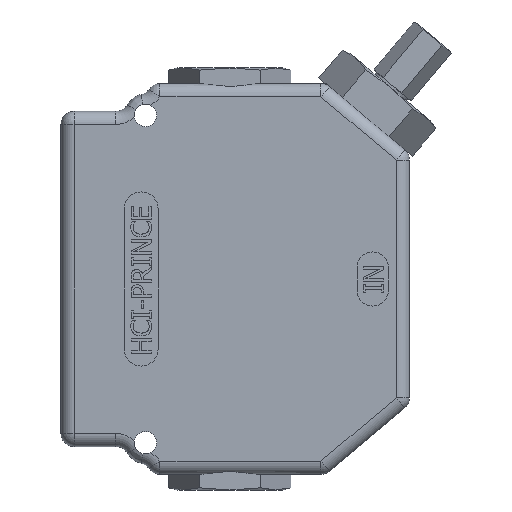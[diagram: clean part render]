
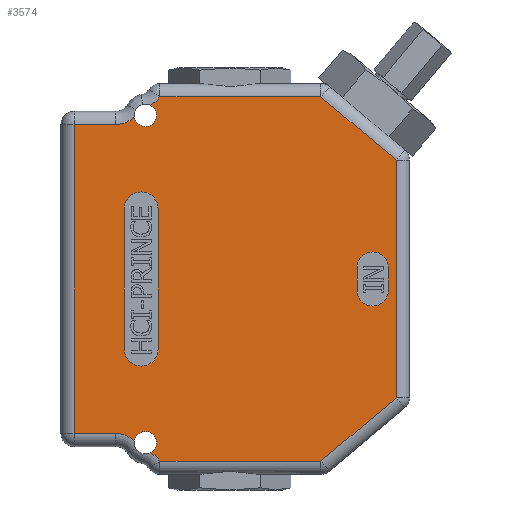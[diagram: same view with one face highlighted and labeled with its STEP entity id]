
A CAD part, left-side view. The second image highlights one B-rep face of the part: STEP entity #3574.
In plain terms, the highlighted planar face has unit normal (-1, 0, 0).
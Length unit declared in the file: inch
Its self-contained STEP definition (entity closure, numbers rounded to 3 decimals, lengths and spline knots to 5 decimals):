
#987=CARTESIAN_POINT('',(-0.875,-1.0766,-0.126));
#988=VERTEX_POINT('',#987);
#996=CARTESIAN_POINT('',(-0.875,-1.969,-0.87481));
#997=VERTEX_POINT('',#996);
#998=CARTESIAN_POINT('',(-0.875,-1.0766,-0.126));
#999=DIRECTION('',(0.0,-0.766,-0.643));
#1000=VECTOR('',#999,1.16495);
#1001=LINE('',#998,#1000);
#1002=EDGE_CURVE('',#988,#997,#1001,.T.);
#2968=CARTESIAN_POINT('',(-0.875,-1.0766,-4.439));
#2969=VERTEX_POINT('',#2968);
#2977=CARTESIAN_POINT('',(-0.875,0.8286,-4.439));
#2978=VERTEX_POINT('',#2977);
#2979=CARTESIAN_POINT('',(-0.875,-1.0766,-4.439));
#2980=DIRECTION('',(0.0,1.0,0.0));
#2981=VECTOR('',#2980,1.9052);
#2982=LINE('',#2979,#2981);
#2983=EDGE_CURVE('',#2969,#2978,#2982,.T.);
#3051=CARTESIAN_POINT('',(-0.875,0.94152,-4.3399));
#3052=VERTEX_POINT('',#3051);
#3066=CARTESIAN_POINT('',(-0.875,1.13115,-4.20216));
#3067=VERTEX_POINT('',#3066);
#3068=CARTESIAN_POINT('',(-0.875,1.0,-4.221));
#3069=DIRECTION('',(1.0,0.0,0.0));
#3070=DIRECTION('',(0.0,-1.0,0.0));
#3071=AXIS2_PLACEMENT_3D('',#3068,#3069,#3070);
#3072=CIRCLE('',#3071,0.1325);
#3073=EDGE_CURVE('',#3067,#3052,#3072,.T.);
#3159=CARTESIAN_POINT('',(-0.875,0.94353,-0.22614));
#3160=VERTEX_POINT('',#3159);
#3185=CARTESIAN_POINT('',(-0.875,1.1314,-0.36308));
#3186=VERTEX_POINT('',#3185);
#3198=CARTESIAN_POINT('',(-0.875,1.0,-0.346));
#3199=DIRECTION('',(1.0,0.0,0.0));
#3200=DIRECTION('',(0.0,-1.0,0.0));
#3201=AXIS2_PLACEMENT_3D('',#3198,#3199,#3200);
#3202=CIRCLE('',#3201,0.1325);
#3203=EDGE_CURVE('',#3160,#3186,#3202,.T.);
#3301=CARTESIAN_POINT('',(-0.875,1.35168,-4.11088));
#3302=VERTEX_POINT('',#3301);
#3303=CARTESIAN_POINT('',(-0.875,1.35168,-4.42288));
#3304=DIRECTION('',(-1.0,0.0,0.0));
#3305=DIRECTION('',(0.0,-0.5,0.866));
#3306=AXIS2_PLACEMENT_3D('',#3303,#3304,#3305);
#3307=CIRCLE('',#3306,0.312);
#3308=EDGE_CURVE('',#3067,#3302,#3307,.T.);
#3423=CARTESIAN_POINT('',(-0.875,0.01154,-2.2825));
#3424=DIRECTION('',(1.0,0.0,0.0));
#3425=DIRECTION('',(0.0,0.0,-1.0));
#3426=AXIS2_PLACEMENT_3D('',#3423,#3424,#3425);
#3427=PLANE('',#3426);
#3428=ORIENTED_EDGE('',*,*,#3073,.T.);
#3429=CARTESIAN_POINT('',(-0.875,1.08482,-4.61704));
#3430=DIRECTION('',(-1.0,0.0,0.0));
#3431=DIRECTION('',(0.0,-0.554,0.833));
#3432=AXIS2_PLACEMENT_3D('',#3429,#3430,#3431);
#3433=CIRCLE('',#3432,0.312);
#3434=EDGE_CURVE('',#2978,#3052,#3433,.T.);
#3435=ORIENTED_EDGE('',*,*,#3434,.F.);
#3436=ORIENTED_EDGE('',*,*,#2983,.F.);
#3437=CARTESIAN_POINT('',(-0.875,-1.969,-3.69019));
#3438=VERTEX_POINT('',#3437);
#3439=CARTESIAN_POINT('',(-0.875,-1.969,-3.69019));
#3440=DIRECTION('',(0.0,0.766,-0.643));
#3441=VECTOR('',#3440,1.16495);
#3442=LINE('',#3439,#3441);
#3443=EDGE_CURVE('',#3438,#2969,#3442,.T.);
#3444=ORIENTED_EDGE('',*,*,#3443,.F.);
#3445=CARTESIAN_POINT('',(-0.875,-1.969,-0.87481));
#3446=DIRECTION('',(0.0,0.0,-1.0));
#3447=VECTOR('',#3446,2.81538);
#3448=LINE('',#3445,#3447);
#3449=EDGE_CURVE('',#997,#3438,#3448,.T.);
#3450=ORIENTED_EDGE('',*,*,#3449,.F.);
#3451=ORIENTED_EDGE('',*,*,#1002,.F.);
#3452=CARTESIAN_POINT('',(-0.875,0.8286,-0.126));
#3453=VERTEX_POINT('',#3452);
#3454=CARTESIAN_POINT('',(-0.875,0.8286,-0.126));
#3455=DIRECTION('',(0.0,-1.0,0.0));
#3456=VECTOR('',#3455,1.9052);
#3457=LINE('',#3454,#3456);
#3458=EDGE_CURVE('',#3453,#988,#3457,.T.);
#3459=ORIENTED_EDGE('',*,*,#3458,.F.);
#3460=CARTESIAN_POINT('',(-0.875,1.08482,0.05204));
#3461=DIRECTION('',(-1.0,0.0,0.0));
#3462=DIRECTION('',(0.0,-0.554,-0.833));
#3463=AXIS2_PLACEMENT_3D('',#3460,#3461,#3462);
#3464=CIRCLE('',#3463,0.312);
#3465=EDGE_CURVE('',#3160,#3453,#3464,.T.);
#3466=ORIENTED_EDGE('',*,*,#3465,.F.);
#3467=ORIENTED_EDGE('',*,*,#3203,.T.);
#3468=CARTESIAN_POINT('',(-0.875,1.35168,-0.45413));
#3469=VERTEX_POINT('',#3468);
#3470=CARTESIAN_POINT('',(-0.875,1.35168,-0.14213));
#3471=DIRECTION('',(-1.0,0.0,0.0));
#3472=DIRECTION('',(0.0,-0.5,-0.866));
#3473=AXIS2_PLACEMENT_3D('',#3470,#3471,#3472);
#3474=CIRCLE('',#3473,0.312);
#3475=EDGE_CURVE('',#3469,#3186,#3474,.T.);
#3476=ORIENTED_EDGE('',*,*,#3475,.F.);
#3477=CARTESIAN_POINT('',(-0.875,1.844,-0.45413));
#3478=VERTEX_POINT('',#3477);
#3479=CARTESIAN_POINT('',(-0.875,1.844,-0.45413));
#3480=DIRECTION('',(0.0,-1.0,0.0));
#3481=VECTOR('',#3480,0.49232);
#3482=LINE('',#3479,#3481);
#3483=EDGE_CURVE('',#3478,#3469,#3482,.T.);
#3484=ORIENTED_EDGE('',*,*,#3483,.F.);
#3485=CARTESIAN_POINT('',(-0.875,1.844,-4.11088));
#3486=VERTEX_POINT('',#3485);
#3487=CARTESIAN_POINT('',(-0.875,1.844,-4.11088));
#3488=DIRECTION('',(0.0,0.0,1.0));
#3489=VECTOR('',#3488,3.65675);
#3490=LINE('',#3487,#3489);
#3491=EDGE_CURVE('',#3486,#3478,#3490,.T.);
#3492=ORIENTED_EDGE('',*,*,#3491,.F.);
#3493=CARTESIAN_POINT('',(-0.875,1.35168,-4.11088));
#3494=DIRECTION('',(0.0,1.0,0.0));
#3495=VECTOR('',#3494,0.49232);
#3496=LINE('',#3493,#3495);
#3497=EDGE_CURVE('',#3302,#3486,#3496,.T.);
#3498=ORIENTED_EDGE('',*,*,#3497,.F.);
#3499=ORIENTED_EDGE('',*,*,#3308,.F.);
#3500=EDGE_LOOP('',(#3428,#3435,#3436,#3444,#3450,#3451,#3459,#3466,#3467,#3476,#3484,#3492,#3498,#3499));
#3501=FACE_OUTER_BOUND('',#3500,.T.);
#3502=CARTESIAN_POINT('',(-0.875,-1.875,-2.1475));
#3503=VERTEX_POINT('',#3502);
#3504=CARTESIAN_POINT('',(-0.875,-1.875,-2.4175));
#3505=VERTEX_POINT('',#3504);
#3506=CARTESIAN_POINT('',(-0.875,-1.875,-2.1475));
#3507=DIRECTION('',(0.0,0.0,-1.0));
#3508=VECTOR('',#3507,0.27);
#3509=LINE('',#3506,#3508);
#3510=EDGE_CURVE('',#3503,#3505,#3509,.T.);
#3511=ORIENTED_EDGE('',*,*,#3510,.T.);
#3512=CARTESIAN_POINT('',(-0.875,-1.505,-2.4175));
#3513=VERTEX_POINT('',#3512);
#3514=CARTESIAN_POINT('',(-0.875,-1.69,-2.4175));
#3515=DIRECTION('',(1.0,0.0,0.0));
#3516=DIRECTION('',(0.0,-1.0,0.0));
#3517=AXIS2_PLACEMENT_3D('',#3514,#3515,#3516);
#3518=CIRCLE('',#3517,0.185);
#3519=EDGE_CURVE('',#3505,#3513,#3518,.T.);
#3520=ORIENTED_EDGE('',*,*,#3519,.T.);
#3521=CARTESIAN_POINT('',(-0.875,-1.505,-2.1475));
#3522=VERTEX_POINT('',#3521);
#3523=CARTESIAN_POINT('',(-0.875,-1.505,-2.4175));
#3524=DIRECTION('',(0.0,0.0,1.0));
#3525=VECTOR('',#3524,0.27);
#3526=LINE('',#3523,#3525);
#3527=EDGE_CURVE('',#3513,#3522,#3526,.T.);
#3528=ORIENTED_EDGE('',*,*,#3527,.T.);
#3529=CARTESIAN_POINT('',(-0.875,-1.69,-2.1475));
#3530=DIRECTION('',(1.0,0.0,0.0));
#3531=DIRECTION('',(0.0,1.0,0.0));
#3532=AXIS2_PLACEMENT_3D('',#3529,#3530,#3531);
#3533=CIRCLE('',#3532,0.185);
#3534=EDGE_CURVE('',#3522,#3503,#3533,.T.);
#3535=ORIENTED_EDGE('',*,*,#3534,.T.);
#3536=EDGE_LOOP('',(#3511,#3520,#3528,#3535));
#3537=FACE_BOUND('',#3536,.T.);
#3538=CARTESIAN_POINT('',(-0.875,1.25,-3.1135));
#3539=VERTEX_POINT('',#3538);
#3540=CARTESIAN_POINT('',(-0.875,1.25,-1.4515));
#3541=VERTEX_POINT('',#3540);
#3542=CARTESIAN_POINT('',(-0.875,1.25,-3.1135));
#3543=DIRECTION('',(0.0,0.0,1.0));
#3544=VECTOR('',#3543,1.662);
#3545=LINE('',#3542,#3544);
#3546=EDGE_CURVE('',#3539,#3541,#3545,.T.);
#3547=ORIENTED_EDGE('',*,*,#3546,.T.);
#3548=CARTESIAN_POINT('',(-0.875,0.85,-1.4515));
#3549=VERTEX_POINT('',#3548);
#3550=CARTESIAN_POINT('',(-0.875,1.05,-1.4515));
#3551=DIRECTION('',(1.0,0.0,0.0));
#3552=DIRECTION('',(0.0,1.0,0.0));
#3553=AXIS2_PLACEMENT_3D('',#3550,#3551,#3552);
#3554=CIRCLE('',#3553,0.2);
#3555=EDGE_CURVE('',#3541,#3549,#3554,.T.);
#3556=ORIENTED_EDGE('',*,*,#3555,.T.);
#3557=CARTESIAN_POINT('',(-0.875,0.85,-3.1135));
#3558=VERTEX_POINT('',#3557);
#3559=CARTESIAN_POINT('',(-0.875,0.85,-1.4515));
#3560=DIRECTION('',(0.0,0.0,-1.0));
#3561=VECTOR('',#3560,1.662);
#3562=LINE('',#3559,#3561);
#3563=EDGE_CURVE('',#3549,#3558,#3562,.T.);
#3564=ORIENTED_EDGE('',*,*,#3563,.T.);
#3565=CARTESIAN_POINT('',(-0.875,1.05,-3.1135));
#3566=DIRECTION('',(1.0,0.0,0.0));
#3567=DIRECTION('',(0.0,-1.0,0.0));
#3568=AXIS2_PLACEMENT_3D('',#3565,#3566,#3567);
#3569=CIRCLE('',#3568,0.2);
#3570=EDGE_CURVE('',#3558,#3539,#3569,.T.);
#3571=ORIENTED_EDGE('',*,*,#3570,.T.);
#3572=EDGE_LOOP('',(#3547,#3556,#3564,#3571));
#3573=FACE_BOUND('',#3572,.T.);
#3574=ADVANCED_FACE('',(#3501,#3537,#3573),#3427,.F.);
